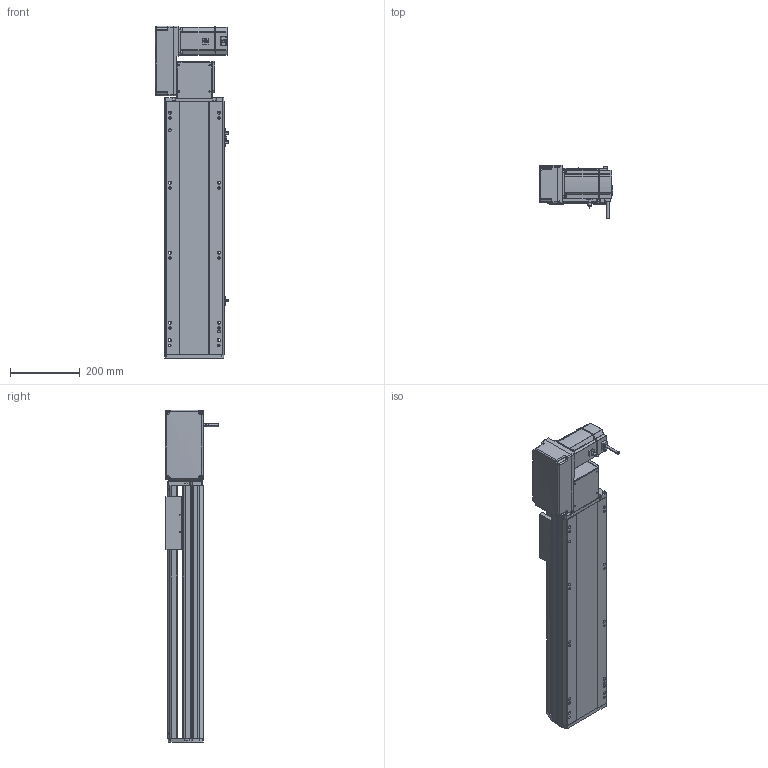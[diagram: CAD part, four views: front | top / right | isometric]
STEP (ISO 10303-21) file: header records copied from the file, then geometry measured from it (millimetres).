
FILE_DESCRIPTION (( 'STEP AP214' ), '1' );
FILE_NAME ('RTB17S-XX-450-L-M75-C4.STEP', '2025-12-12T00:08:48', ( '' ), ( '' ), 'SwSTEP 2.0', 'SolidWorks 2018', '' );
FILE_SCHEMA (( 'AUTOMOTIVE_DESIGN' ));
Length unit declared in the file: millimetre
Products named in the file (15): RTB22S-GY-008-M75--萇儂啣^RTB17S-L-々湍釱蚾饜-750W_RTB17S-XX-XX-L-M75-C4; RTB17S-L-々湍釱蚾饜-750W^RTB17S-XX-XX-L-M75-C4; RTH13-BL-012覜茼え俋离^RTB17S-賑釱_RTB17S-XX-XX-L-M75-C4; RTB17S-L-007奻裔^RTB17S-XX-XX-L-M75-C4; RTB17S-XX-450-L-M75-C4; RTB17S-賑釱^RTB17S-XX-XX-L-M75-C4; RTB22S-GY-005P^RTB17S-L-々湍釱蚾饜-750W_RTB17S-XX-XX-L-M75-C4; RTB17S-L-004-賑釱^RTB17S-賑釱_RTB17S-XX-XX-L-M75-C4; RTB22S-GY-018P^RTB17S-L-々湍釱蚾饜-750W_RTB17S-XX-XX-L-M75-C4; RTB17S-L-001-耜醱啣^RTB17S-XX-XX-L-M75-C4; RMP17S-L-014-T20-P75--々湍釱^RTB17S-L-々湍釱蚾饜-750W_RTB17S-XX-XX-L-M75-C4; EE672^RTB17S-XX-XX-L-M75-C4; RTB17-R-011菁釱^RTB17S-XX-XX-L-M75-C4; RTB22S-GY-017P^RTB17S-L-々湍釱蚾饜-750W_RTB17S-XX-XX-L-M75-C4; 750W萇儂^RTB17S-XX-XX-L-M75-C4
Assembly tree (17 placements, depth 3):
  RTB17S-XX-450-L-M75-C4
    RTB17-R-011菁釱^RTB17S-XX-XX-L-M75-C4
    EE672^RTB17S-XX-XX-L-M75-C4  x3
    RTB17S-L-001-耜醱啣^RTB17S-XX-XX-L-M75-C4
    RTB17S-賑釱^RTB17S-XX-XX-L-M75-C4
      RTB17S-L-004-賑釱^RTB17S-賑釱_RTB17S-XX-XX-L-M75-C4
      RTH13-BL-012覜茼え俋离^RTB17S-賑釱_RTB17S-XX-XX-L-M75-C4
    RTB17S-L-007奻裔^RTB17S-XX-XX-L-M75-C4
    750W萇儂^RTB17S-XX-XX-L-M75-C4
    RTB17S-L-々湍釱蚾饜-750W^RTB17S-XX-XX-L-M75-C4
      RMP17S-L-014-T20-P75--々湍釱^RTB17S-L-々湍釱蚾饜-750W_RTB17S-XX-XX-L-M75-C4
      RTB22S-GY-005P^RTB17S-L-々湍釱蚾饜-750W_RTB17S-XX-XX-L-M75-C4
      RTB22S-GY-017P^RTB17S-L-々湍釱蚾饜-750W_RTB17S-XX-XX-L-M75-C4  x2
      RTB22S-GY-008-M75--萇儂啣^RTB17S-L-々湍釱蚾饜-750W_RTB17S-XX-XX-L-M75-C4
      RTB22S-GY-018P^RTB17S-L-々湍釱蚾饜-750W_RTB17S-XX-XX-L-M75-C4
Bounding box: 210.4 x 152.7 x 949 mm (x, y, z)
Volume: 8757759.5 mm3; surface area: 1397136.6 mm2
Topology: 17 solids, 17 shells, 2057 faces, 5674 edges, 3662 vertices
Faces by surface type: plane 966, cylinder 675, bspline 294, cone 110, sphere 8, torus 4
Entity records: 56566 total; most frequent: CARTESIAN_POINT 16538, ORIENTED_EDGE 8192, DIRECTION 7682, EDGE_CURVE 4096, AXIS2_PLACEMENT_3D 2682, VERTEX_POINT 2666, VECTOR 2318, LINE 2318
